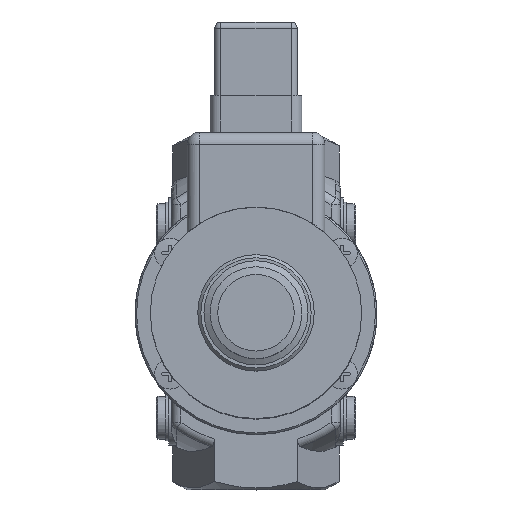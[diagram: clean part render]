
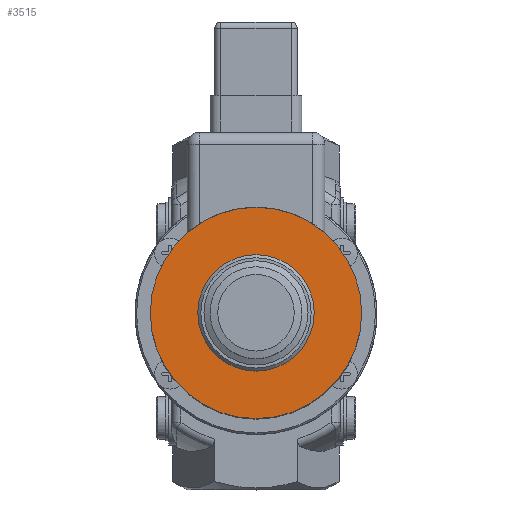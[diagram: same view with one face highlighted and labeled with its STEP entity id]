
A CAD part, top view. The second image highlights one B-rep face of the part: STEP entity #3515.
In plain terms, the highlighted planar face has unit normal (0, 0, 1).
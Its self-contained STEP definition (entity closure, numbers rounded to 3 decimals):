
#3515 = ADVANCED_FACE( '', ( #5641, #5642 ), #5643, .F. );
#5641 = FACE_BOUND( '', #8461, .T. );
#5642 = FACE_OUTER_BOUND( '', #8462, .T. );
#5643 = PLANE( '', #8463 );
#8461 = EDGE_LOOP( '', ( #13711 ) );
#8462 = EDGE_LOOP( '', ( #13712 ) );
#8463 = AXIS2_PLACEMENT_3D( '', #13713, #13714, #13715 );
#13711 = ORIENTED_EDGE( '', *, *, #15529, .T. );
#13712 = ORIENTED_EDGE( '', *, *, #15520, .F. );
#13713 = CARTESIAN_POINT( '', ( 0., 0., 60. ) );
#13714 = DIRECTION( '', ( 0., 0., -1. ) );
#13715 = DIRECTION( '', ( -1., 0., 0. ) );
#15520 = EDGE_CURVE( '', #18015, #18015, #18016, .T. );
#15529 = EDGE_CURVE( '', #18032, #18032, #18033, .T. );
#18015 = VERTEX_POINT( '', #22462 );
#18016 = CIRCLE( '', #22463, 34.5 );
#18032 = VERTEX_POINT( '', #22528 );
#18033 = CIRCLE( '', #22529, 13.75 );
#22462 = CARTESIAN_POINT( '', ( 34.5, 0., 60. ) );
#22463 = AXIS2_PLACEMENT_3D( '', #25483, #25484, #25485 );
#22528 = CARTESIAN_POINT( '', ( 13.75, 0., 60. ) );
#22529 = AXIS2_PLACEMENT_3D( '', #25497, #25498, #25499 );
#25483 = CARTESIAN_POINT( '', ( 0., 0., 60. ) );
#25484 = DIRECTION( '', ( 0., 0., -1. ) );
#25485 = DIRECTION( '', ( 1., 0., 0. ) );
#25497 = CARTESIAN_POINT( '', ( 0., 0., 60. ) );
#25498 = DIRECTION( '', ( 0., 0., -1. ) );
#25499 = DIRECTION( '', ( 1., 0., 0. ) );
